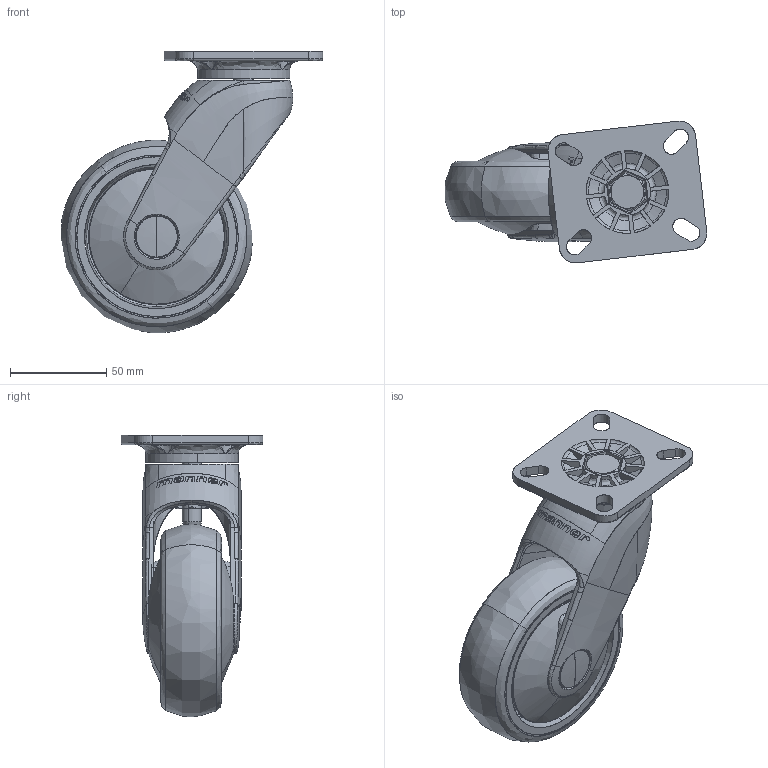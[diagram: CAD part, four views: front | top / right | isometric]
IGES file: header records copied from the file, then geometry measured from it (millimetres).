
Start section: SolidWorks IGES file using analytic representation for surfaces
Global section: file name: S:\Tyokansio\VL\301787_IGES.IGS; native system: SolidWorks 2011; preprocessor: SolidWorks 2011; author: VilleLa; date: 110620.152741; units: millimetre
Bounding box: 135.82 x 73.65 x 146.26 mm (x, y, z)
Surface area: 82282.2 mm2 (no closed solid volume)
Topology: 0 solids, 0 shells, 410 faces, 7318 edges, 7298 vertices
Faces by surface type: bspline 280, revolution 130
